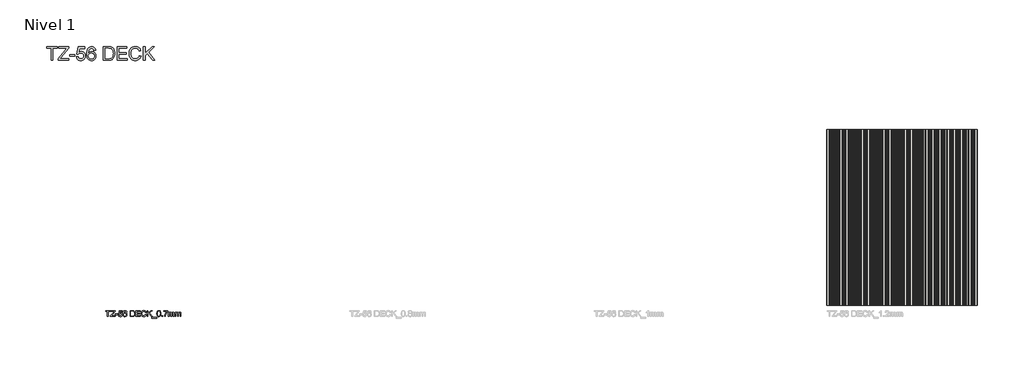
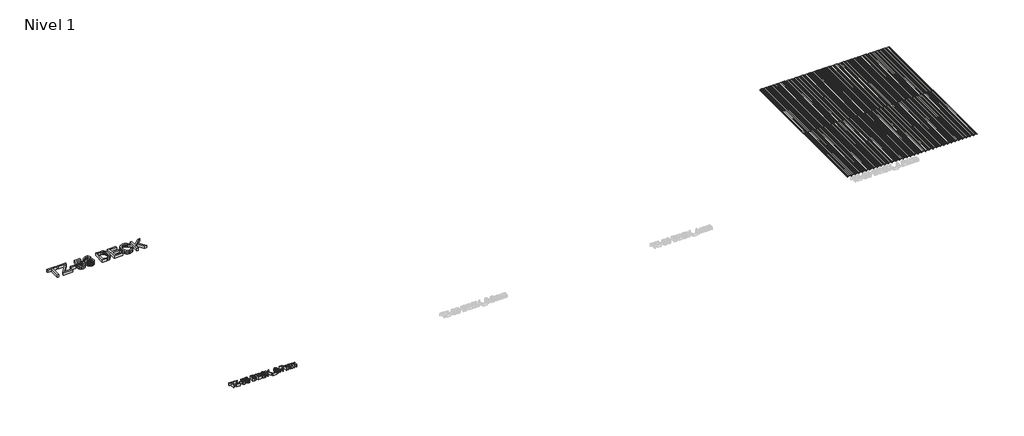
# One storey, part 1 of 2: 7 roofs, 2 proxies.
"""IFC4 building model written with IfcOpenShell, lengths in millimetres."""

from ifc_helpers import new_model, si_unit, origin, origin_with_axes, place, context, project, spatial, polyline, outline, extrude, transform, mapped, element, save
from components import panel_tz_56_deck_tz_56_deck_1_2mm_c2fe84ad

model = new_model("IFC4")

# Units and contexts
model_context = context("Model", 3, world=origin())
ifc_project = project(units=[si_unit("LENGTHUNIT", "METRE", prefix="MILLI")], contexts=[model_context])

# Site, building, storey
site = spatial("IfcSite", under=ifc_project)
building = spatial("IfcBuilding", under=site)
storey = spatial("IfcBuildingStorey", under=building, Name="Nivel 1", Elevation=0.0)

# Proxies
placement = place(None, origin())
element("IfcBuildingElementProxy", 1, Name="Texto de modelo 1", ObjectType="Texto de modelo 1", at=placement, inside=storey, context=model_context, shape_type="SweptSolid", body=[
    extrude(outline(polyline([(-12104.9518456, -37789.0115797), (-12104.9518456, -37525.3137656), (-12203.8385259, -37525.3137656), (-12203.8385259, -37487.6426493), (-11968.394049, -37487.6426493), (-11968.394049, -37525.3137656), (-12067.2807293, -37525.3137656), (-12067.2807293, -37789.0115797), (-12104.9518456, -37789.0115797)])), origin_with_axes(), (0.0, 0.0, 1.0), 150.0),
    extrude(outline(polyline([(-11949.5584908, -37789.0115797), (-11949.5584908, -37749.9425118), (-11795.4159348, -37561.2190483), (-11766.132528, -37525.3137656), (-11930.7229326, -37525.3137656), (-11930.7229326, -37487.6426493), (-11718.8229034, -37487.6426493), (-11718.8229034, -37525.3137656), (-11887.5335864, -37731.8427177), (-11903.4260886, -37751.3404634), (-11714.1140139, -37751.3404634), (-11714.1140139, -37789.0115797), (-11949.5584908, -37789.0115797)])), origin_with_axes(), (0.0, 0.0, 1.0), 150.0),
    extrude(outline(polyline([(-11695.2784557, -37699.5426785), (-11695.2784557, -37661.8715622), (-11577.5562173, -37661.8715622), (-11577.5562173, -37699.5426785), (-11695.2784557, -37699.5426785)])), origin_with_axes(), (0.0, 0.0, 1.0), 150.0),
    extrude(outline(polyline([(-11544.5939905, -37708.9604576), (-11506.9228742, -37704.251568), (-11500.0066927, -37726.8671137), (-11487.9401633, -37743.0631185), (-11470.7784682, -37752.8027944), (-11448.5767898, -37756.049353), (-11421.5742513, -37751.5336015), (-11401.3407416, -37737.986347), (-11388.7039951, -37716.971088), (-11384.4917462, -37690.051323), (-11388.4372806, -37664.7042536), (-11400.2738838, -37645.3168724), (-11420.0935263, -37633.0112197), (-11447.9881786, -37628.9093354), (-11466.2627167, -37630.5464103), (-11481.0607699, -37635.4576349), (-11502.2139847, -37652.4537831), (-11539.885101, -37647.7448936), (-11506.9228742, -37492.3515388), (-11360.9472985, -37492.3515388), (-11360.9472985, -37530.0226551), (-11476.462245, -37530.0226551), (-11492.5754764, -37613.0168332), (-11465.6649084, -37596.6828727), (-11437.4667535, -37591.2382191), (-11419.1209383, -37592.9258778), (-11402.2696436, -37597.9888537), (-11386.9128696, -37606.427147), (-11373.0506162, -37618.2407576), (-11361.5749972, -37632.707717), (-11353.3781265, -37649.106057), (-11348.460004, -37667.4357774), (-11346.8206299, -37687.6968783), (-11352.7251359, -37725.3679946), (-11360.1057685, -37742.1618076), (-11370.438654, -37757.5944573), (-11386.0920329, -37773.3995876), (-11404.3573739, -37784.6889663), (-11425.2346772, -37791.4625935), (-11448.7239426, -37793.7204693), (-11485.7236742, -37787.9171308), (-11501.402345, -37780.6629577), (-11515.2002191, -37770.5071154), (-11526.6804366, -37757.9554416), (-11535.4061377, -37743.513774), (-11544.5939905, -37708.9604576)])), origin_with_axes(), (0.0, 0.0, 1.0), 150.0),
    extrude(outline(polyline([(-11120.7939321, -37567.6937714), (-11158.4650484, -37572.402661), (-11164.5351013, -37553.7326497), (-11172.7388698, -37540.9855386), (-11189.8269885, -37529.2317088), (-11210.4835625, -37525.3137656), (-11227.9947455, -37527.594634), (-11244.4758588, -37534.4372391), (-11258.6301186, -37548.8490162), (-11270.1908103, -37568.6870528), (-11277.9991057, -37596.747252), (-11280.8961764, -37635.8255169), (-11265.7854234, -37618.1947723), (-11247.6764322, -37605.7695579), (-11227.5808782, -37598.402721), (-11206.5104369, -37595.9471087), (-11188.4106428, -37597.6255703), (-11171.7088002, -37602.6609551), (-11156.4049092, -37611.0532631), (-11142.4989698, -37622.8024943), (-11130.9428766, -37637.2096729), (-11122.6885243, -37653.5758232), (-11117.735913, -37671.9009451), (-11116.0850425, -37692.1850386), (-11119.1936454, -37719.1599859), (-11128.519454, -37744.1667645), (-11143.2899161, -37765.3751615), (-11162.7324795, -37780.954964), (-11185.9642275, -37790.529093), (-11212.1022433, -37793.7204693), (-11234.5591398, -37791.6051478), (-11254.8409341, -37785.2591834), (-11272.947626, -37774.682576), (-11288.8792157, -37759.8753257), (-11301.8677494, -37740.2120331), (-11311.1452734, -37715.0672987), (-11316.7117879, -37684.4411226), (-11318.5672927, -37648.3335048), (-11316.5071535, -37607.8526897), (-11310.326736, -37573.3039719), (-11300.0260401, -37544.6873512), (-11285.6050659, -37522.0028276), (-11269.9746796, -37506.9702496), (-11251.8518928, -37496.2326939), (-11231.2367055, -37489.7901604), (-11208.1291177, -37487.6426493), (-11175.0749205, -37492.9585441), (-11148.6058109, -37508.9062286), (-11130.0645583, -37534.234904), (-11120.7939321, -37567.6937714)]), holes=[polyline([(-11280.8961764, -37691.5964274), (-11278.7164755, -37708.2890729), (-11272.1773731, -37724.2275604), (-11262.02383, -37737.9311647), (-11249.0008074, -37747.9191609), (-11233.2830491, -37754.0168049), (-11215.0452992, -37756.049353), (-11190.1856734, -37751.8371041), (-11170.6419424, -37739.2003576), (-11157.9776047, -37719.3347298), (-11153.7561588, -37693.4358374), (-11157.9224224, -37668.5762116), (-11170.4212132, -37649.6210918), (-11190.296038, -37637.6189417), (-11216.5904036, -37633.618225), (-11241.4132412, -37637.6189417), (-11262.1709828, -37649.6210918), (-11276.214878, -37668.1163591), (-11280.8961764, -37691.5964274)])]), origin_with_axes(), (0.0, 0.0, 1.0), 150.0),
    extrude(outline(polyline([(-10951.2739087, -37789.0115797), (-10951.2739087, -37487.6426493), (-10847.3104568, -37487.6426493), (-10793.5261092, -37491.9836568), (-10769.5034149, -37500.3529722), (-10749.2331169, -37513.5415417), (-10728.3926019, -37536.4973782), (-10713.5485634, -37565.0450211), (-10704.6642132, -37598.6326472), (-10701.7027632, -37636.7084337), (-10703.70772, -37669.0544582), (-10709.7225907, -37697.5193275), (-10718.8828523, -37721.753554), (-10730.3239824, -37741.4076496), (-10743.4941578, -37756.9230727), (-10757.8415556, -37768.7412818), (-10774.313472, -37777.5060703), (-10793.857203, -37783.8612318), (-10842.3072617, -37789.0115797), (-10951.2739087, -37789.0115797)]), holes=[polyline([(-10913.6027924, -37751.3404634), (-10846.9425749, -37751.3404634), (-10819.3698193, -37749.9793), (-10798.4557279, -37745.8958099), (-10782.6735903, -37739.3291163), (-10770.4966963, -37730.5183425), (-10757.4092943, -37714.2119731), (-10747.577648, -37693.1047436), (-10741.4248216, -37667.1046836), (-10739.3738795, -37636.1198225), (-10743.3929903, -37595.0641919), (-10755.4503227, -37564.7507155), (-10773.2650083, -37543.9285945), (-10794.5561787, -37531.3470303), (-10816.2244283, -37526.8220818), (-10847.9726444, -37525.3137656), (-10913.6027924, -37525.3137656), (-10913.6027924, -37751.3404634)])]), origin_with_axes(), (0.0, 0.0, 1.0), 150.0),
    extrude(outline(polyline([(-10649.9049782, -37789.0115797), (-10649.9049782, -37487.6426493), (-10433.2960595, -37487.6426493), (-10433.2960595, -37525.3137656), (-10612.2338619, -37525.3137656), (-10612.2338619, -37614.7826668), (-10442.7138386, -37614.7826668), (-10442.7138386, -37652.4537831), (-10612.2338619, -37652.4537831), (-10612.2338619, -37751.3404634), (-10428.5871699, -37751.3404634), (-10428.5871699, -37789.0115797), (-10649.9049782, -37789.0115797)])), origin_with_axes(), (0.0, 0.0, 1.0), 150.0),
    extrude(outline(polyline([(-10160.1804663, -37681.8843427), (-10122.50935, -37691.5964274), (-10129.9635589, -37715.0236127), (-10139.8917742, -37735.4939465), (-10152.293996, -37753.0074287), (-10167.1702242, -37767.5640594), (-10184.1847664, -37779.0074887), (-10203.0019305, -37787.1813668), (-10223.6217163, -37792.0856937), (-10246.0441239, -37793.7204693), (-10289.7393079, -37788.7724564), (-10324.4397771, -37773.9284179), (-10351.0376454, -37749.7033885), (-10370.4250265, -37716.6124031), (-10382.2616297, -37677.7088821), (-10386.2071641, -37636.0462461), (-10381.7465949, -37592.1027418), (-10368.3648873, -37554.155714), (-10346.7610172, -37523.4099763), (-10317.6339602, -37501.0703421), (-10283.0898408, -37487.4679053), (-10245.2347835, -37482.9337597), (-10203.9308325, -37488.8014776), (-10185.9620963, -37496.1361248), (-10169.7821863, -37506.404631), (-10155.657817, -37519.3356832), (-10143.8557027, -37534.6579683), (-10127.2182395, -37572.4762374), (-10164.8893558, -37581.4525581), (-10177.9491666, -37553.9809701), (-10195.7914434, -37535.1362149), (-10218.6369153, -37524.2377108), (-10246.7063115, -37520.6048761), (-10279.061533, -37524.6331839), (-10305.6410072, -37536.7181074), (-10325.8101375, -37555.5904538), (-10338.9343277, -37579.9810301), (-10346.1356178, -37607.5537856), (-10348.5360478, -37635.9726697), (-10345.6941594, -37670.7743065), (-10337.1684941, -37700.8670537), (-10322.6371553, -37725.1012801), (-10301.7782462, -37742.3273545), (-10276.7714676, -37752.6188534), (-10249.7965203, -37756.049353), (-10218.3518067, -37751.3772516), (-10192.1494116, -37737.3609476), (-10172.3665573, -37714.1475937), (-10160.1804663, -37681.8843427)])), origin_with_axes(), (0.0, 0.0, 1.0), 150.0),
    extrude(outline(polyline([(-10070.711565, -37789.0115797), (-10070.711565, -37487.6426493), (-10033.0404487, -37487.6426493), (-10033.0404487, -37635.1633294), (-9878.5300108, -37487.6426493), (-9825.849309, -37487.6426493), (-9955.5645005, -37611.5453053), (-9821.1404195, -37789.0115797), (-9867.1992453, -37789.0115797), (-9982.2727334, -37637.0027393), (-10033.0404487, -37685.4160099), (-10033.0404487, -37789.0115797), (-10070.711565, -37789.0115797)])), origin_with_axes(), (0.0, 0.0, 1.0), 150.0),
    extrude(outline(polyline([(-9830.5581986, -37873.7715914), (-9830.5581986, -37836.1004751), (-9585.6959426, -37836.1004751), (-9585.6959426, -37873.7715914), (-9830.5581986, -37873.7715914)])), origin_with_axes(), (0.0, 0.0, 1.0), 150.0),
    extrude(outline(polyline([(-9576.2781635, -37640.7551357), (-9573.5098515, -37592.5166091), (-9565.2049155, -37554.0453494), (-9551.4461288, -37524.7527455), (-9532.3162651, -37504.0501863), (-9507.6773685, -37491.7445335), (-9477.3914832, -37487.6426493), (-9454.1781293, -37490.0706705), (-9433.3927966, -37497.354734), (-9416.0103723, -37509.2097313), (-9403.0057438, -37525.3505538), (-9393.1832945, -37545.6392458), (-9385.347408, -37569.9378516), (-9380.2154542, -37600.793954), (-9378.5048029, -37640.7551357), (-9381.2455238, -37688.7177508), (-9389.4676864, -37727.0970399), (-9403.1436995, -37756.417235), (-9422.2459721, -37777.2025677), (-9446.9400511, -37789.5909939), (-9477.3914832, -37793.7204693), (-9498.1400277, -37791.9270445), (-9516.5341275, -37786.5467704), (-9532.5737825, -37777.5796467), (-9546.2589927, -37765.0256736), (-9559.3923799, -37742.3319531), (-9568.7733708, -37714.0556232), (-9574.4019653, -37680.1966841), (-9576.2781635, -37640.7551357)]), holes=[polyline([(-9538.6070472, -37640.6815593), (-9534.1924633, -37699.9381517), (-9528.6742333, -37720.2061503), (-9520.9487114, -37734.2339507), (-9501.2302365, -37750.5955024), (-9477.3914832, -37756.049353), (-9453.5527299, -37750.5771083), (-9433.834255, -37734.1603743), (-9426.1087331, -37720.1095813), (-9420.5905032, -37699.8461812), (-9416.1759192, -37640.6815593), (-9420.4433504, -37582.7585391), (-9425.7776393, -37562.5572191), (-9433.2456438, -37548.1960257), (-9452.9273305, -37531.0343306), (-9477.8329416, -37525.3137656), (-9501.4141775, -37530.3537489), (-9520.3601002, -37545.4736989), (-9528.3431395, -37561.1086837), (-9534.0453105, -37582.188322), (-9538.6070472, -37640.6815593)])]), origin_with_axes(), (0.0, 0.0, 1.0), 150.0),
    extrude(outline(polyline([(-9326.707018, -37789.0115797), (-9326.707018, -37751.3404634), (-9289.0359017, -37751.3404634), (-9289.0359017, -37789.0115797), (-9326.707018, -37789.0115797)])), origin_with_axes(), (0.0, 0.0, 1.0), 150.0),
    extrude(outline(polyline([(-9227.8203377, -37530.0226551), (-9227.8203377, -37492.3515388), (-9030.0469771, -37492.3515388), (-9030.0469771, -37522.812168), (-9058.235935, -37558.4875245), (-9086.1489813, -37603.8565716), (-9110.7694839, -37654.7806367), (-9129.0808102, -37707.1210476), (-9138.0571309, -37746.282086), (-9143.060326, -37789.0115797), (-9180.7314423, -37789.0115797), (-9176.6571492, -37750.1816351), (-9165.7586451, -37704.0308388), (-9148.3302356, -37655.1117305), (-9124.6662262, -37607.9768499), (-9097.0382884, -37565.3669178), (-9067.7180934, -37530.0226551), (-9227.8203377, -37530.0226551)])), origin_with_axes(), (0.0, 0.0, 1.0), 150.0),
    extrude(outline(polyline([(-8987.6669712, -37789.0115797), (-8987.6669712, -37567.6937714), (-8949.9958549, -37567.6937714), (-8949.9958549, -37604.114089), (-8938.6650895, -37587.3846552), (-8924.0969625, -37574.2788591), (-8906.7881146, -37565.8083762), (-8887.2351865, -37562.9848819), (-8866.2843069, -37565.8635585), (-8849.4904938, -37574.4995883), (-8836.9457178, -37588.3227543), (-8828.7419493, -37606.7628393), (-8815.0107538, -37587.6099829), (-8799.3481779, -37573.9293713), (-8781.7542215, -37565.7210042), (-8762.2288846, -37562.9848819), (-8733.911168, -37567.5374216), (-8712.9694854, -37581.1950407), (-8700.0292363, -37604.3256211), (-8695.7158199, -37637.2970449), (-8695.7158199, -37789.0115797), (-8733.3869362, -37789.0115797), (-8733.3869362, -37653.4838527), (-8736.8818151, -37622.0299421), (-8741.7930398, -37613.3571241), (-8749.5369558, -37606.5421101), (-8759.4973608, -37602.1275262), (-8771.0580525, -37600.6559982), (-8791.4663062, -37604.4267887), (-8808.1037694, -37615.73916), (-8819.1678204, -37635.3656644), (-8822.8558374, -37664.0788542), (-8822.8558374, -37789.0115797), (-8860.5269537, -37789.0115797), (-8860.5269537, -37649.289998), (-8862.7066545, -37627.9896304), (-8869.245757, -37612.796104), (-8880.7512664, -37603.6910247), (-8897.830188, -37600.6559982), (-8912.3431327, -37602.6793492), (-8925.7156432, -37608.7494021), (-8936.7521031, -37618.7190042), (-8944.2568958, -37632.4410026), (-8948.5611151, -37651.4788958), (-8949.9958549, -37677.3961824), (-8949.9958549, -37789.0115797), (-8987.6669712, -37789.0115797)])), origin_with_axes(), (0.0, 0.0, 1.0), 150.0),
    extrude(outline(polyline([(-8639.2091454, -37789.0115797), (-8639.2091454, -37567.6937714), (-8601.5380291, -37567.6937714), (-8601.5380291, -37604.114089), (-8590.2072636, -37587.3846552), (-8575.6391366, -37574.2788591), (-8558.3302888, -37565.8083762), (-8538.7773607, -37562.9848819), (-8517.8264811, -37565.8635585), (-8501.032668, -37574.4995883), (-8488.487892, -37588.3227543), (-8480.2841235, -37606.7628393), (-8466.552928, -37587.6099829), (-8450.8903521, -37573.9293713), (-8433.2963956, -37565.7210042), (-8413.7710588, -37562.9848819), (-8385.4533422, -37567.5374216), (-8364.5116596, -37581.1950407), (-8351.5714104, -37604.3256211), (-8347.257994, -37637.2970449), (-8347.257994, -37789.0115797), (-8384.9291103, -37789.0115797), (-8384.9291103, -37653.4838527), (-8388.4239893, -37622.0299421), (-8393.3352139, -37613.3571241), (-8401.0791299, -37606.5421101), (-8411.0395349, -37602.1275262), (-8422.6002266, -37600.6559982), (-8443.0084803, -37604.4267887), (-8459.6459436, -37615.73916), (-8470.7099946, -37635.3656644), (-8474.3980116, -37664.0788542), (-8474.3980116, -37789.0115797), (-8512.0691279, -37789.0115797), (-8512.0691279, -37649.289998), (-8514.2488287, -37627.9896304), (-8520.7879312, -37612.796104), (-8532.2934406, -37603.6910247), (-8549.3723622, -37600.6559982), (-8563.8853069, -37602.6793492), (-8577.2578174, -37608.7494021), (-8588.2942773, -37618.7190042), (-8595.79907, -37632.4410026), (-8600.1032893, -37651.4788958), (-8601.5380291, -37677.3961824), (-8601.5380291, -37789.0115797), (-8639.2091454, -37789.0115797)])), origin_with_axes(), (0.0, 0.0, 1.0), 150.0),
])
element("IfcBuildingElementProxy", 2, Name="Texto de modelo 2", ObjectType="Texto de modelo 2", at=placement, inside=storey, context=model_context, shape_type="SweptSolid", body=[
    extrude(outline(polyline([(-14990.4400847, -24670.9027607), (-14990.4400847, -24058.8707885), (-15219.9520743, -24058.8707885), (-15219.9520743, -23971.4376496), (-14673.4949563, -23971.4376496), (-14673.4949563, -24058.8707885), (-14903.0069458, -24058.8707885), (-14903.0069458, -24670.9027607), (-14990.4400847, -24670.9027607)])), origin_with_axes(), (0.0, 0.0, 1.0), 150.0),
    extrude(outline(polyline([(-14629.7783868, -24670.9027607), (-14629.7783868, -24580.2250327), (-14272.0197424, -24142.205499), (-14204.0541383, -24058.8707885), (-14586.0618174, -24058.8707885), (-14586.0618174, -23971.4376496), (-14094.2504112, -23971.4376496), (-14094.2504112, -24058.8707885), (-14485.8210898, -24538.2161417), (-14522.7069453, -24583.4696218), (-14083.3212688, -24583.4696218), (-14083.3212688, -24670.9027607), (-14629.7783868, -24670.9027607)])), origin_with_axes(), (0.0, 0.0, 1.0), 150.0),
    extrude(outline(polyline([(-14039.6046994, -24463.2490558), (-14039.6046994, -24375.815917), (-13766.3761404, -24375.815917), (-13766.3761404, -24463.2490558), (-14039.6046994, -24463.2490558)])), origin_with_axes(), (0.0, 0.0, 1.0), 150.0),
    extrude(outline(polyline([(-13689.8721438, -24485.1073406), (-13602.439005, -24474.1781982), (-13595.9071347, -24502.2855189), (-13586.3868271, -24526.6679659), (-13573.8780822, -24547.3255392), (-13558.3808998, -24564.2582387), (-13539.9272991, -24577.4447186), (-13518.549299, -24586.8636328), (-13494.2468994, -24592.5149813), (-13467.0201004, -24594.3987642), (-13433.7203698, -24591.778545), (-13404.3482997, -24583.9178874), (-13378.9038901, -24570.8167915), (-13357.3871411, -24552.4752571), (-13340.2783372, -24529.8004886), (-13328.057763, -24503.6996902), (-13320.7254184, -24474.1728617), (-13318.2813036, -24441.2200033), (-13320.5706601, -24410.0762167), (-13327.4387295, -24382.3904792), (-13338.8855119, -24358.1627905), (-13354.9110073, -24337.3931508), (-13375.5685806, -24320.7326125), (-13400.9115967, -24308.832228), (-13430.9400557, -24301.6919973), (-13465.6539576, -24299.3119204), (-13508.0684222, -24303.1115051), (-13542.4141059, -24314.510259), (-13569.8436917, -24331.9712716), (-13591.5098626, -24353.9576322), (-13678.9430015, -24343.0284899), (-13602.439005, -23982.366792), (-13263.6355918, -23982.366792), (-13263.6355918, -24069.7999309), (-13531.7411153, -24069.7999309), (-13569.1392743, -24262.426065), (-13538.2836586, -24240.3116285), (-13506.6809334, -24224.5156024), (-13474.331099, -24215.0379868), (-13441.2341552, -24211.8787816), (-13398.6542592, -24215.7957691), (-13359.5430852, -24227.5467317), (-13323.9006331, -24247.1316695), (-13291.726903, -24274.5505823), (-13265.092455, -24308.1278107), (-13246.0678493, -24346.1876951), (-13234.6530859, -24388.7302356), (-13230.8481647, -24435.7554321), (-13234.2741947, -24481.0516041), (-13244.5522846, -24523.188571), (-13261.6824345, -24562.1663326), (-13285.6646444, -24597.984889), (-13321.9955043, -24634.6679576), (-13364.3886229, -24660.8701495), (-13412.8440002, -24676.5914647), (-13467.3616361, -24681.831903), (-13512.4817038, -24678.4645745), (-13553.2365184, -24668.3625889), (-13589.6260798, -24651.5259463), (-13621.650388, -24627.9546466), (-13648.295509, -24598.8227188), (-13668.5475087, -24565.3041918), (-13682.4063869, -24527.3990658), (-13689.8721438, -24485.1073406)])), origin_with_axes(), (0.0, 0.0, 1.0), 150.0),
    extrude(outline(polyline([(-12706.2493314, -24157.2330698), (-12793.6824703, -24168.1622121), (-12807.7708179, -24124.8298703), (-12826.8114331, -24095.2443404), (-12845.6065695, -24079.3309115), (-12866.4722661, -24067.9641765), (-12889.4085229, -24061.1441355), (-12914.4153398, -24058.8707885), (-12955.058088, -24064.1645918), (-12993.3100862, -24080.0460018), (-13010.4882646, -24095.196312), (-13026.1615513, -24113.4951543), (-13052.9934496, -24159.5384357), (-13063.4796628, -24188.9051693), (-13071.1161876, -24224.6650243), (-13075.9030239, -24266.8180006), (-13077.8401717, -24315.3640983), (-13061.1742969, -24293.3937472), (-13042.7687246, -24274.4438524), (-13022.6234549, -24258.5144139), (-13000.7384877, -24245.6054318), (-12954.0975188, -24228.5073009), (-12905.193876, -24222.8079239), (-12863.184985, -24226.7035655), (-12824.4206832, -24238.3904902), (-12788.9009705, -24257.868698), (-12756.625847, -24285.1381889), (-12729.8046217, -24318.5766684), (-12710.6466036, -24356.5618419), (-12699.1517927, -24399.0937094), (-12695.3201891, -24446.1722709), (-12697.1239245, -24478.0471573), (-12702.5351307, -24508.7800337), (-12711.5538078, -24538.3709001), (-12724.1799556, -24566.8197565), (-12739.9653087, -24593.0646403), (-12758.4616014, -24616.0435891), (-12779.6688337, -24635.7566027), (-12803.5870056, -24652.2036812), (-12829.7038135, -24665.1660282), (-12857.506954, -24674.4248476), (-12886.996427, -24679.9801392), (-12918.1722325, -24681.831903), (-12970.293782, -24676.9223274), (-13017.367007, -24662.1936004), (-13059.3919074, -24637.645722), (-13096.3684833, -24603.2786923), (-13112.5180522, -24582.050114), (-13126.5143452, -24557.6409846), (-13148.0471038, -24499.2810721), (-13160.9667589, -24428.1989548), (-13165.2733106, -24344.3946327), (-13160.4918108, -24250.4402965), (-13146.1473114, -24170.2541183), (-13135.3889369, -24135.3240883), (-13122.2398125, -24103.8360978), (-13106.6999382, -24075.7901468), (-13088.769314, -24051.1862353), (-13052.491819, -24016.2962291), (-13010.4295631, -23991.374796), (-12962.5825463, -23976.4219362), (-12908.9507686, -23971.4376496), (-12868.6815752, -23974.5221439), (-12832.2333123, -23983.7756267), (-12799.6059801, -23999.1980981), (-12770.7995785, -24020.7895581), (-12746.5932358, -24047.8242433), (-12727.7660805, -24079.5763902), (-12714.3181123, -24116.0459991), (-12706.2493314, -24157.2330698)]), holes=[polyline([(-13077.8401717, -24444.8061281), (-13072.7811741, -24483.5490839), (-13057.6041815, -24520.5416693), (-13034.0382183, -24552.3471812), (-13003.812309, -24575.5289168), (-12967.3320271, -24589.6813023), (-12925.0029465, -24594.3987642), (-12894.6116058, -24591.9546493), (-12867.3047594, -24584.6223048), (-12843.0824072, -24572.4017306), (-12821.9445494, -24555.2929267), (-12804.79839, -24533.9896374), (-12792.5511333, -24509.1856073), (-12785.2027793, -24480.8808363), (-12782.753328, -24449.0753243), (-12785.1707603, -24418.5132158), (-12792.4230574, -24391.3771372), (-12804.5102193, -24367.6670886), (-12821.4322458, -24347.38307), (-12842.6341416, -24331.1334419), (-12867.5609111, -24319.5265646), (-12896.2125544, -24312.5624382), (-12928.5890713, -24310.2410628), (-12958.5748384, -24312.5624382), (-12986.2018745, -24319.5265646), (-13011.4701797, -24331.1334419), (-13034.379754, -24347.38307), (-13053.3936867, -24367.4002639), (-13066.9750673, -24390.3098382), (-13075.1238956, -24416.1117929), (-13077.8401717, -24444.8061281)])]), origin_with_axes(), (0.0, 0.0, 1.0), 150.0),
    extrude(outline(polyline([(-12312.8002065, -24670.9027607), (-12312.8002065, -23971.4376496), (-12071.5052353, -23971.4376496), (-11999.3985109, -23973.9564754), (-11946.6739374, -23981.5129527), (-11917.707441, -23989.8272124), (-11890.9182346, -24000.9377956), (-11866.3063183, -24014.8447023), (-11843.8716921, -24031.5479326), (-11817.9469979, -24056.5654225), (-11795.5016987, -24084.8275016), (-11776.5357945, -24116.3341698), (-11761.0492851, -24151.0854272), (-11749.0208247, -24188.7610839), (-11740.4290673, -24229.0409504), (-11735.2740129, -24271.9250266), (-11733.5556614, -24317.4133125), (-11738.2090853, -24392.4871283), (-11752.169357, -24458.55294), (-11773.4299542, -24514.7996004), (-11799.9843548, -24560.4159621), (-11830.5517998, -24596.4266324), (-11863.8515305, -24623.8562182), (-11902.0821827, -24644.1989382), (-11947.4423927, -24658.9490112), (-12000.0175444, -24667.9143233), (-12059.8930215, -24670.9027607), (-12312.8002065, -24670.9027607)]), holes=[polyline([(-12225.3670676, -24583.4696218), (-12070.651396, -24583.4696218), (-12006.6561445, -24580.3104166), (-11958.1153833, -24570.8328009), (-11921.4856796, -24555.5917704), (-11893.2236005, -24535.1423204), (-11877.0913753, -24517.6119334), (-11862.8482693, -24497.2958958), (-11840.0294155, -24448.306869), (-11825.7489541, -24387.9617802), (-11820.9888003, -24316.0471697), (-11823.3208487, -24265.2864264), (-11830.316994, -24220.7587097), (-11841.9772362, -24182.4640195), (-11858.3015753, -24150.4023558), (-11877.9665605, -24123.8479552), (-11899.6487409, -24102.0750544), (-11923.3481165, -24085.0836534), (-11949.0646873, -24072.8737522), (-11999.3558189, -24062.3715294), (-12073.0421459, -24058.8707885), (-12225.3670676, -24058.8707885), (-12225.3670676, -24583.4696218)])]), origin_with_axes(), (0.0, 0.0, 1.0), 150.0),
    extrude(outline(polyline([(-11613.3350954, -24670.9027607), (-11613.3350954, -23971.4376496), (-11110.5945469, -23971.4376496), (-11110.5945469, -24058.8707885), (-11525.9019565, -24058.8707885), (-11525.9019565, -24266.5244934), (-11132.4528316, -24266.5244934), (-11132.4528316, -24353.9576322), (-11525.9019565, -24353.9576322), (-11525.9019565, -24583.4696218), (-11099.6654045, -24583.4696218), (-11099.6654045, -24670.9027607), (-11613.3350954, -24670.9027607)])), origin_with_axes(), (0.0, 0.0, 1.0), 150.0),
    extrude(outline(polyline([(-10476.70429, -24422.264772), (-10389.2711511, -24444.8061281), (-10406.5720688, -24499.1796786), (-10429.6150555, -24546.6904962), (-10458.4001111, -24587.3385809), (-10492.9272357, -24621.1239326), (-10532.4173008, -24647.6836697), (-10576.0911783, -24666.6549104), (-10623.9488681, -24678.0376549), (-10675.9903702, -24681.831903), (-10729.3072947, -24678.9608686), (-10777.4051267, -24670.3477652), (-10820.2838664, -24655.9925928), (-10857.9435137, -24635.8953516), (-10890.9017086, -24610.3548851), (-10919.6760912, -24579.6700371), (-10944.2666616, -24543.8408078), (-10964.6734196, -24502.8671969), (-10980.6989149, -24458.520921), (-10992.1456973, -24412.5736965), (-10999.0137668, -24365.0255235), (-11001.3031232, -24315.8764018), (-10998.714923, -24263.1411553), (-10990.9503224, -24213.8853038), (-10978.0093213, -24168.1088472), (-10959.8919198, -24125.8117855), (-10937.0036915, -24087.6931996), (-10909.75021, -24054.4521704), (-10878.1314754, -24026.0886979), (-10842.1474876, -24002.6027821), (-10803.0203041, -23984.1865369), (-10761.9719823, -23971.032076), (-10719.0025222, -23963.1393994), (-10674.1119238, -23960.5085073), (-10624.1036265, -23963.9131913), (-10578.2471224, -23974.1272433), (-10536.5424117, -23991.1506632), (-10498.9894943, -24014.9834512), (-10466.2074037, -24044.9959007), (-10438.8151734, -24080.5583054), (-10416.8128033, -24121.6706651), (-10400.2002934, -24168.33298), (-10487.6334323, -24189.1666576), (-10501.4015902, -24154.7836184), (-10517.9447256, -24125.4062118), (-10537.2628385, -24101.0344378), (-10559.3559291, -24081.6682964), (-10584.352073, -24066.9128869), (-10612.3793463, -24056.3733087), (-10643.4377489, -24050.0495618), (-10677.5272808, -24047.9416462), (-10716.7505212, -24050.2790311), (-10752.6224426, -24057.2911859), (-10785.1430449, -24068.9781106), (-10814.3123282, -24085.3398052), (-10839.7620742, -24105.6398333), (-10861.1240649, -24129.1417585), (-10878.3983002, -24155.845581), (-10891.58478, -24185.7513006), (-10908.2986833, -24249.7465522), (-10913.8699844, -24315.705634), (-10912.2210073, -24357.4583731), (-10907.2740762, -24396.4788267), (-10899.029191, -24432.7669947), (-10887.4863516, -24466.3228771), (-10872.4587809, -24496.479412), (-10853.7597014, -24522.5695375), (-10831.3891131, -24544.5932536), (-10805.3470161, -24562.5505602), (-10776.8981597, -24576.4841495), (-10747.3072933, -24586.4367132), (-10716.5744169, -24592.4082514), (-10684.6995305, -24594.3987642), (-10646.6876745, -24591.6878245), (-10611.7176209, -24583.5550057), (-10579.7893695, -24570.0003077), (-10550.9029205, -24551.0237304), (-10525.7413452, -24526.7106579), (-10504.987715, -24497.1464739), (-10488.6420299, -24462.3311786), (-10476.70429, -24422.264772)])), origin_with_axes(), (0.0, 0.0, 1.0), 150.0),
    extrude(outline(polyline([(-10269.0505851, -24670.9027607), (-10269.0505851, -23971.4376496), (-10181.6174462, -23971.4376496), (-10181.6174462, -24313.8271876), (-9823.0049625, -23971.4376496), (-9700.7351824, -23971.4376496), (-10001.7989008, -24259.010708), (-9689.80604, -24670.9027607), (-9796.7067137, -24670.9027607), (-10063.7876302, -24318.0963839), (-10181.6174462, -24430.4616288), (-10181.6174462, -24670.9027607), (-10269.0505851, -24670.9027607)])), origin_with_axes(), (0.0, 0.0, 1.0), 150.0),
])

# Roofs
panel_tz_56_deck_tz_56_deck_1_2mm_shape = panel_tz_56_deck_tz_56_deck_1_2mm_c2fe84ad(model_context)
element("IfcRoof", 3, ObjectType="Panel_TZ-56 DECK : TZ-56 DECK_1.2mm", at=placement, inside=storey, context=model_context, shape_type="MappedRepresentation", body=[
    mapped(panel_tz_56_deck_tz_56_deck_1_2mm_shape, transform((25229.133267, -37212.7855956, 0.0), x_axis=(1.0, 0.0, 0.0), y_axis=(0.0, 0.0, -1.0), z_axis=(0.0, 1.0, 0.0))),
])
element("IfcRoof", 4, ObjectType="Panel_TZ-56 DECK : TZ-56 DECK_1.2mm", at=placement, inside=storey, context=model_context, shape_type="MappedRepresentation", body=[
    mapped(panel_tz_56_deck_tz_56_deck_1_2mm_shape, transform((26329.1332671, -37212.7855956, 0.0), x_axis=(1.0, 0.0, 0.0), y_axis=(0.0, 0.0, -1.0), z_axis=(0.0, 1.0, 0.0))),
])
element("IfcRoof", 5, ObjectType="Panel_TZ-56 DECK : TZ-56 DECK_1.2mm", at=placement, inside=storey, context=model_context, shape_type="MappedRepresentation", body=[
    mapped(panel_tz_56_deck_tz_56_deck_1_2mm_shape, transform((27429.1332671, -37212.7855956, 0.0), x_axis=(1.0, 0.0, 0.0), y_axis=(0.0, 0.0, -1.0), z_axis=(0.0, 1.0, 0.0))),
])
element("IfcRoof", 6, ObjectType="Panel_TZ-56 DECK : TZ-56 DECK_1.2mm", at=placement, inside=storey, context=model_context, shape_type="MappedRepresentation", body=[
    mapped(panel_tz_56_deck_tz_56_deck_1_2mm_shape, transform((28529.1332671, -37212.7855956, 0.0), x_axis=(1.0, 0.0, 0.0), y_axis=(0.0, 0.0, -1.0), z_axis=(0.0, 1.0, 0.0))),
])
element("IfcRoof", 7, ObjectType="Panel_TZ-56 DECK : TZ-56 DECK_1.2mm", at=placement, inside=storey, context=model_context, shape_type="MappedRepresentation", body=[
    mapped(panel_tz_56_deck_tz_56_deck_1_2mm_shape, transform((29629.1332671, -37212.7855956, 0.0), x_axis=(1.0, 0.0, 0.0), y_axis=(0.0, 0.0, -1.0), z_axis=(0.0, 1.0, 0.0))),
])
element("IfcRoof", 8, ObjectType="Panel_TZ-56 DECK : TZ-56 DECK_1.2mm", at=placement, inside=storey, context=model_context, shape_type="MappedRepresentation", body=[
    mapped(panel_tz_56_deck_tz_56_deck_1_2mm_shape, transform((30729.1332671, -37212.7855956, 0.0), x_axis=(1.0, 0.0, 0.0), y_axis=(0.0, 0.0, -1.0), z_axis=(0.0, 1.0, 0.0))),
])
element("IfcRoof", 9, ObjectType="Panel_TZ-56 DECK : TZ-56 DECK_1.2mm", at=placement, inside=storey, context=model_context, shape_type="MappedRepresentation", body=[
    mapped(panel_tz_56_deck_tz_56_deck_1_2mm_shape, transform((31829.133267, -37212.7855956, 0.0), x_axis=(1.0, 0.0, 0.0), y_axis=(0.0, 0.0, -1.0), z_axis=(0.0, 1.0, 0.0))),
])

save(model, "model.ifc")
